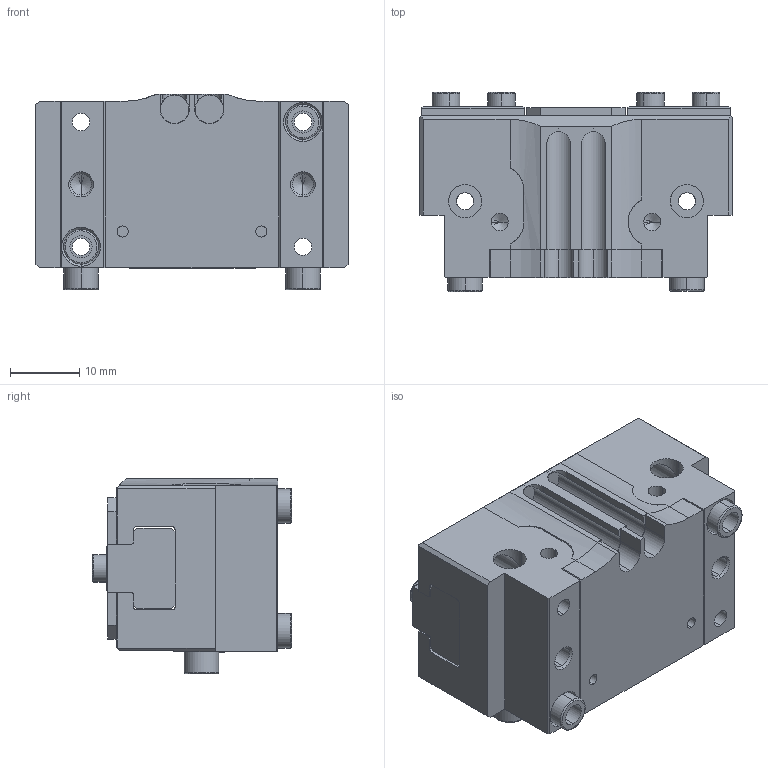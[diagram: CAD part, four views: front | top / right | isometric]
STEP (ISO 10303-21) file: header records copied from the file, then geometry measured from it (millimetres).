
FILE_DESCRIPTION (( 'STEP AP203' ), '1' );
FILE_NAME ('OPP-40-C1-原始檔-組合-W106.04.19.STEP', '2017-04-19T07:33:21', ( 'DanyaoCAD' ), ( '' ), 'SwSTEP 2.0', 'SolidWorks 2016', '' );
FILE_SCHEMA (( 'CONFIG_CONTROL_DESIGN' ));
Length unit declared in the file: millimetre
Products named in the file (7): Boccola _; Corpo; Fondello; Griffa; OPP-40-C1-原始檔-組合-W106.04.19; Boccola __2; Coperchio
Assembly tree (13 placements, depth 2):
  OPP-40-C1-原始檔-組合-W106.04.19
    Boccola __2  x4
    Coperchio
    Boccola _  x4
    Corpo
    Fondello
    Griffa  x2
Bounding box: 45 x 28.7 x 28.2 mm (x, y, z)
Volume: 21555.7 mm3; surface area: 13866.8 mm2
Topology: 44 solids, 44 shells, 1189 faces, 3201 edges, 2086 vertices
Faces by surface type: bspline 672, plane 321, cylinder 140, cone 56
Entity records: 51600 total; most frequent: CARTESIAN_POINT 27594, ORIENTED_EDGE 5894, EDGE_CURVE 2947, DIRECTION 2751, VERTEX_POINT 1947, LINE 1387, VECTOR 1387, B_SPLINE_CURVE_WITH_KNOTS 1307
